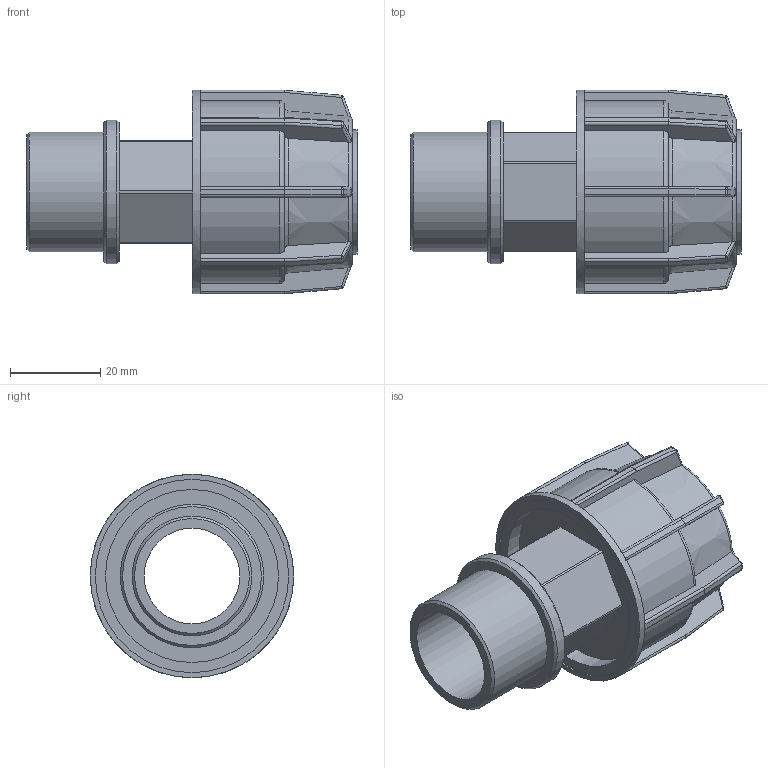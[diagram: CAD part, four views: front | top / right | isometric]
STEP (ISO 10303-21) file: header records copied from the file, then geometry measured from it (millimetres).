
FILE_DESCRIPTION(/* description */ ('PLASSON IRRIFIT ADAPTOR 25-3/4"M'),/* implementation_level */ '2;1');
FILE_NAME(/* name */ 'C:\Dropbox\KIMPROJECTS-Inventor\99-16-3568-Processing\Silver+MF ISRAEL\040207\040207025007.ipt.stp',/* time_stamp */ '2018-04-09T12:59:40+03:00',/* author */ ('KIM'),/* organization */ (''),/* preprocessor_version */ 'ST-DEVELOPER v15.6',/* originating_system */ 'Autodesk Inventor 2015',/* authorisation */ '');
FILE_SCHEMA (('AUTOMOTIVE_DESIGN { 1 0 10303 214 3 1 1 }'));
Length unit declared in the file: millimetre
Products named in the file (1): 040207025007
Bounding box: 73 x 45 x 45 mm (x, y, z)
Volume: 29938.6 mm3; surface area: 17916.5 mm2
Topology: 1 solids, 1 shells, 283 faces, 670 edges, 389 vertices
Faces by surface type: plane 142, cylinder 81, sphere 32, torus 17, cone 11
Full cylindrical faces by diameter (mm): 21.153 x1, 25 x1, 26.441 x1, 27.5 x1, 30 x1, 31.729 x1, 38.25 x1, 42.75 x1, 45 x1
Entity records: 8330 total; most frequent: CARTESIAN_POINT 2112, DIRECTION 1300, ORIENTED_EDGE 1280, EDGE_CURVE 640, AXIS2_PLACEMENT_3D 512, VERTEX_POINT 380, EDGE_LOOP 306, FACE_OUTER_BOUND 283
